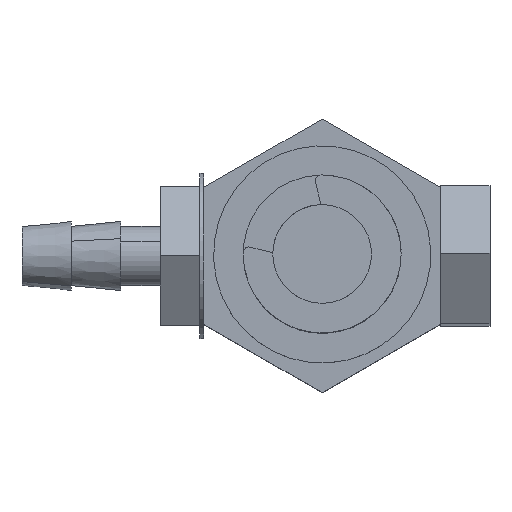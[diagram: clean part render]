
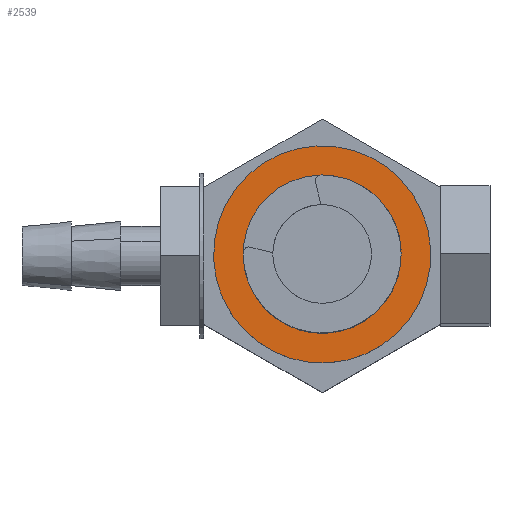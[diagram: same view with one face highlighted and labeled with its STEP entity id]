
A CAD part, top view. The second image highlights one B-rep face of the part: STEP entity #2539.
In plain terms, the highlighted planar face has unit normal (0, 0, 1).
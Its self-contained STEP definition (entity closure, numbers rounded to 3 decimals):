
#280 = DIRECTION ( 'NONE',  ( 0., 0., -1. ) ) ;
#295 = CARTESIAN_POINT ( 'NONE',  ( -3.793, -1.703, 22.5 ) ) ;
#499 = DIRECTION ( 'NONE',  ( 0.229, -0.973, 0. ) ) ;
#685 = DIRECTION ( 'NONE',  ( 0.973, 0.229, 0. ) ) ;
#1142 = EDGE_CURVE ( 'NONE', #7196, #2846, #6619, .T. ) ;
#1252 = AXIS2_PLACEMENT_3D ( 'NONE', #295, #280, #499 ) ;
#1684 = ORIENTED_EDGE ( 'NONE', *, *, #5503, .F. ) ;
#1960 = ORIENTED_EDGE ( 'NONE', *, *, #1142, .F. ) ;
#1968 = CIRCLE ( 'NONE', #4902, 4. ) ;
#2000 = DIRECTION ( 'NONE',  ( 0., 0., -1. ) ) ;
#2481 = EDGE_CURVE ( 'NONE', #10044, #9230, #9301, .T. ) ;
#2539 = ADVANCED_FACE ( 'NONE', ( #5412, #8164 ), #4377, .F. ) ;
#2597 = DIRECTION ( 'NONE',  ( 0., 0., -1. ) ) ;
#2840 = ORIENTED_EDGE ( 'NONE', *, *, #2481, .T. ) ;
#2846 = VERTEX_POINT ( 'NONE', #8563 ) ;
#3156 = AXIS2_PLACEMENT_3D ( 'NONE', #8153, #2597, #9076 ) ;
#4377 = PLANE ( 'NONE',  #3156 ) ;
#4902 = AXIS2_PLACEMENT_3D ( 'NONE', #10806, #5272, #11709 ) ;
#5272 = DIRECTION ( 'NONE',  ( 0., 0., -1. ) ) ;
#5412 = FACE_BOUND ( 'NONE', #9089, .T. ) ;
#5503 = EDGE_CURVE ( 'NONE', #2846, #7196, #11379, .T. ) ;
#6249 = DIRECTION ( 'NONE',  ( 0., 0., -1. ) ) ;
#6362 = EDGE_CURVE ( 'NONE', #9230, #10044, #1968, .T. ) ;
#6619 = CIRCLE ( 'NONE', #1252, 5.5 ) ;
#6788 = EDGE_LOOP ( 'NONE', ( #1960, #1684 ) ) ;
#7196 = VERTEX_POINT ( 'NONE', #7751 ) ;
#7208 = ORIENTED_EDGE ( 'NONE', *, *, #6362, .T. ) ;
#7560 = CARTESIAN_POINT ( 'NONE',  ( -3.793, -1.703, 22.5 ) ) ;
#7751 = CARTESIAN_POINT ( 'NONE',  ( -2.533, -7.057, 22.5 ) ) ;
#8153 = CARTESIAN_POINT ( 'NONE',  ( -7.936, -8.396, 22.5 ) ) ;
#8164 = FACE_OUTER_BOUND ( 'NONE', #6788, .T. ) ;
#8481 = DIRECTION ( 'NONE',  ( 0.229, -0.973, 0. ) ) ;
#8563 = CARTESIAN_POINT ( 'NONE',  ( -5.054, 3.651, 22.5 ) ) ;
#9076 = DIRECTION ( 'NONE',  ( -0.229, 0.973, 0. ) ) ;
#9089 = EDGE_LOOP ( 'NONE', ( #2840, #7208 ) ) ;
#9163 = CARTESIAN_POINT ( 'NONE',  ( -7.687, -2.62, 22.5 ) ) ;
#9230 = VERTEX_POINT ( 'NONE', #9163 ) ;
#9301 = CIRCLE ( 'NONE', #10832, 4. ) ;
#10044 = VERTEX_POINT ( 'NONE', #10738 ) ;
#10738 = CARTESIAN_POINT ( 'NONE',  ( 0.1, -0.786, 22.5 ) ) ;
#10806 = CARTESIAN_POINT ( 'NONE',  ( -3.793, -1.703, 22.5 ) ) ;
#10832 = AXIS2_PLACEMENT_3D ( 'NONE', #11753, #6249, #685 ) ;
#11375 = AXIS2_PLACEMENT_3D ( 'NONE', #7560, #2000, #8481 ) ;
#11379 = CIRCLE ( 'NONE', #11375, 5.5 ) ;
#11709 = DIRECTION ( 'NONE',  ( 0.973, 0.229, 0. ) ) ;
#11753 = CARTESIAN_POINT ( 'NONE',  ( -3.793, -1.703, 22.5 ) ) ;
